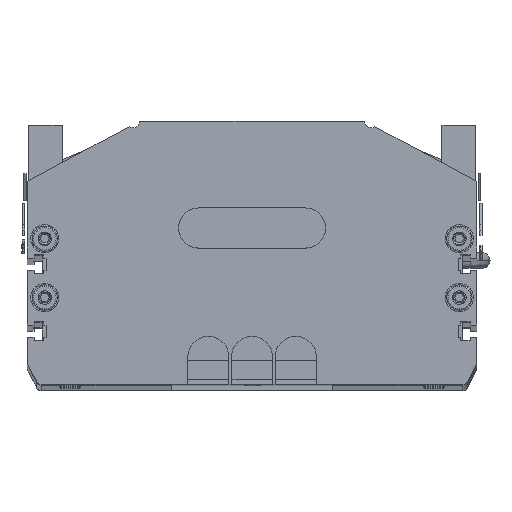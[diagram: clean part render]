
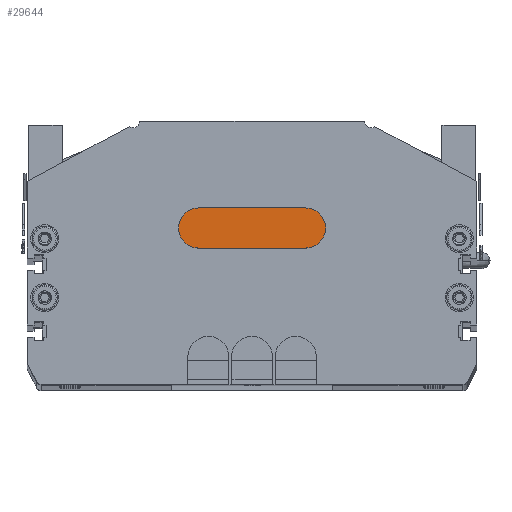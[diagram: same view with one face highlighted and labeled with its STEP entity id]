
A CAD part, top view. The second image highlights one B-rep face of the part: STEP entity #29644.
In plain terms, the highlighted planar face has unit normal (0, 0, 1).
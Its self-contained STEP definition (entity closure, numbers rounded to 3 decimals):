
#4745 = VERTEX_POINT ( 'NONE', #59764 ) ;
#4749 = EDGE_CURVE ( 'NONE', #4767, #4745, #59816, .T. ) ;
#4767 = VERTEX_POINT ( 'NONE', #59842 ) ;
#10574 = VERTEX_POINT ( 'NONE', #36416 ) ;
#18987 = EDGE_CURVE ( 'NONE', #4745, #27826, #38266, .T. ) ;
#27755 = EDGE_CURVE ( 'NONE', #27826, #27853, #39869, .T. ) ;
#27768 = EDGE_CURVE ( 'NONE', #10574, #4767, #39895, .T. ) ;
#27826 = VERTEX_POINT ( 'NONE', #40028 ) ;
#27853 = VERTEX_POINT ( 'NONE', #40049 ) ;
#28756 = EDGE_CURVE ( 'NONE', #27853, #10574, #41018, .T. ) ;
#29349 = ORIENTED_EDGE ( 'NONE', *, *, #18987, .T. ) ;
#29608 = ORIENTED_EDGE ( 'NONE', *, *, #27768, .T. ) ;
#29632 = EDGE_LOOP ( 'NONE', ( #29646, #29841, #29608, #29914, #29349 ) ) ;
#29644 = ADVANCED_FACE ( 'NONE', ( #41196 ), #41239, .T. ) ;
#29646 = ORIENTED_EDGE ( 'NONE', *, *, #27755, .T. ) ;
#29841 = ORIENTED_EDGE ( 'NONE', *, *, #28756, .T. ) ;
#29914 = ORIENTED_EDGE ( 'NONE', *, *, #4749, .T. ) ;
#36416 = CARTESIAN_POINT ( 'NONE',  ( 20., 18.25, 6. ) ) ;
#38252 = DIRECTION ( 'NONE',  ( -1., 0., 0. ) ) ;
#38253 = VECTOR ( 'NONE', #38252, 1000. ) ;
#38254 = CARTESIAN_POINT ( 'NONE',  ( -20., 33.25, 6. ) ) ;
#38266 = LINE ( 'NONE', #38254, #38253 ) ;
#39829 = CARTESIAN_POINT ( 'NONE',  ( -20., 25.75, 6. ) ) ;
#39860 = DIRECTION ( 'NONE',  ( 1., 0., 0. ) ) ;
#39861 = AXIS2_PLACEMENT_3D ( 'NONE', #39829, #39867, #39860 ) ;
#39867 = DIRECTION ( 'NONE',  ( 0., 0., 1. ) ) ;
#39869 = CIRCLE ( 'NONE', #39861, 7.5 ) ;
#39889 = DIRECTION ( 'NONE',  ( 1., 0., 0. ) ) ;
#39890 = DIRECTION ( 'NONE',  ( 0., 0., 1. ) ) ;
#39891 = CARTESIAN_POINT ( 'NONE',  ( 20., 25.75, 6. ) ) ;
#39892 = AXIS2_PLACEMENT_3D ( 'NONE', #39891, #39890, #39889 ) ;
#39895 = CIRCLE ( 'NONE', #39892, 7.5 ) ;
#40028 = CARTESIAN_POINT ( 'NONE',  ( -20., 33.25, 6. ) ) ;
#40049 = CARTESIAN_POINT ( 'NONE',  ( -20., 18.25, 6. ) ) ;
#41015 = DIRECTION ( 'NONE',  ( 1., 0., 0. ) ) ;
#41016 = VECTOR ( 'NONE', #41015, 1000. ) ;
#41017 = CARTESIAN_POINT ( 'NONE',  ( -20., 18.25, 6. ) ) ;
#41018 = LINE ( 'NONE', #41017, #41016 ) ;
#41193 = AXIS2_PLACEMENT_3D ( 'NONE', #41226, #41225, #41224 ) ;
#41196 = FACE_OUTER_BOUND ( 'NONE', #29632, .T. ) ;
#41224 = DIRECTION ( 'NONE',  ( 1., 0., 0. ) ) ;
#41225 = DIRECTION ( 'NONE',  ( 0., 0., 1. ) ) ;
#41226 = CARTESIAN_POINT ( 'NONE',  ( -20., 25.75, 6. ) ) ;
#41239 = PLANE ( 'NONE',  #41193 ) ;
#59764 = CARTESIAN_POINT ( 'NONE',  ( 20., 33.25, 6. ) ) ;
#59812 = DIRECTION ( 'NONE',  ( 1., 0., 0. ) ) ;
#59813 = DIRECTION ( 'NONE',  ( 0., 0., 1. ) ) ;
#59814 = CARTESIAN_POINT ( 'NONE',  ( 20., 25.75, 6. ) ) ;
#59815 = AXIS2_PLACEMENT_3D ( 'NONE', #59814, #59813, #59812 ) ;
#59816 = CIRCLE ( 'NONE', #59815, 7.5 ) ;
#59842 = CARTESIAN_POINT ( 'NONE',  ( 27.5, 25.75, 6. ) ) ;
